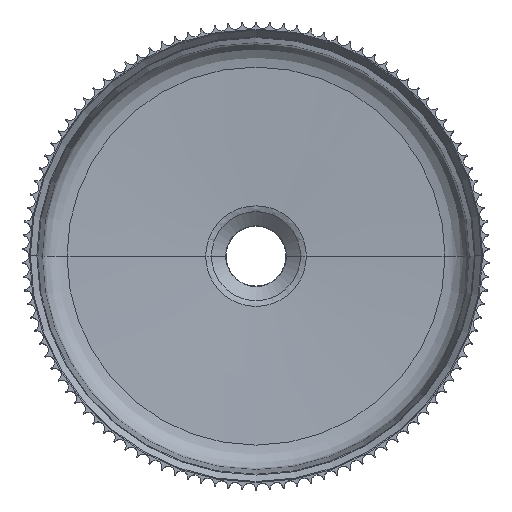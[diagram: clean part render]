
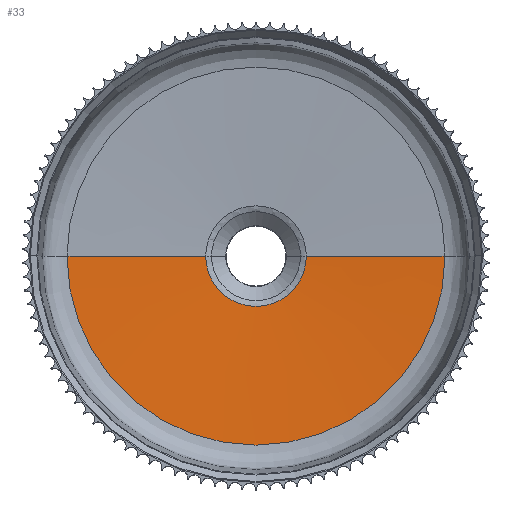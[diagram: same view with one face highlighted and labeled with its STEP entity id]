
A CAD part, top view. The second image highlights one B-rep face of the part: STEP entity #33.
In plain terms, the highlighted free-form (B-spline) face has degree [1, 2] with [2, 5] control points.
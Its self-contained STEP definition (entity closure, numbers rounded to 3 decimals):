
#33=ADVANCED_FACE('',(#503),#8584,.T.);
#503=FACE_OUTER_BOUND('',#973,.T.);
#973=EDGE_LOOP('',(#1816,#1817,#1818,#1819));
#1816=ORIENTED_EDGE('',*,*,#5498,.T.);
#1817=ORIENTED_EDGE('',*,*,#4181,.T.);
#1818=ORIENTED_EDGE('',*,*,#5500,.F.);
#1819=ORIENTED_EDGE('',*,*,#5499,.F.);
#4181=EDGE_CURVE('',#7694,#7695,#5835,.T.);
#5498=EDGE_CURVE('',#8564,#7694,#6863,.T.);
#5499=EDGE_CURVE('',#8564,#8565,#6063,.T.);
#5500=EDGE_CURVE('',#8565,#7695,#6864,.T.);
#5835=B_SPLINE_CURVE_WITH_KNOTS('',1,(#16865,#16866),.UNSPECIFIED.,.F.,
 .F.,(2,2),(424.435,620.937),.UNSPECIFIED.);
#6063=B_SPLINE_CURVE_WITH_KNOTS('',1,(#24238,#24239),.UNSPECIFIED.,.F.,
 .F.,(2,2),(424.435,620.937),.UNSPECIFIED.);
#6863=TRIMMED_CURVE($,#7669,(#24236),(#24237),.T.,.CARTESIAN.);
#6864=TRIMMED_CURVE($,#7670,(#24241),(#24242),.T.,.CARTESIAN.);
#7669=CIRCLE('',#10251,38.708);
#7670=CIRCLE('',#10252,145.486);
#7694=VERTEX_POINT('',#15898);
#7695=VERTEX_POINT('',#15899);
#8564=VERTEX_POINT('',#16768);
#8565=VERTEX_POINT('',#16769);
#8584=(
BOUNDED_SURFACE()
B_SPLINE_SURFACE(1,2,((#12512,#12513,#12514,#12515,#12516),(#12517,#12518,
#12519,#12520,#12521)),.UNSPECIFIED.,.F.,.F.,.F.)
B_SPLINE_SURFACE_WITH_KNOTS((2,2),(3,2,3),(424.435,620.937),
(0.,228.529,457.058),.UNSPECIFIED.)
GEOMETRIC_REPRESENTATION_ITEM()
RATIONAL_B_SPLINE_SURFACE(((1.,0.707,1.,0.707,1.),
(1.,0.707,1.,0.707,1.)))
REPRESENTATION_ITEM('')
SURFACE()
);
#10251=AXIS2_PLACEMENT_3D($,#24235,#12183,#12184);
#10252=AXIS2_PLACEMENT_3D($,#24240,#12185,#12186);
#12183=DIRECTION('',(0.,0.,-1.));
#12184=DIRECTION('',(1.,0.,0.));
#12185=DIRECTION('',(0.,0.,-1.));
#12186=DIRECTION('',(1.,0.,0.));
#12512=CARTESIAN_POINT('',(-21070.356,36329.64,-1573.018));
#12513=CARTESIAN_POINT('',(-21070.356,36290.932,-1573.018));
#12514=CARTESIAN_POINT('',(-21031.649,36290.932,-1573.018));
#12515=CARTESIAN_POINT('',(-20992.941,36290.932,-1573.018));
#12516=CARTESIAN_POINT('',(-20992.941,36329.64,-1573.018));
#12517=CARTESIAN_POINT('',(-21177.135,36329.64,-1567.918));
#12518=CARTESIAN_POINT('',(-21177.135,36184.154,-1567.918));
#12519=CARTESIAN_POINT('',(-21031.649,36184.154,-1567.918));
#12520=CARTESIAN_POINT('',(-20886.163,36184.154,-1567.918));
#12521=CARTESIAN_POINT('',(-20886.163,36329.64,-1567.918));
#15898=CARTESIAN_POINT('',(-21070.356,36329.64,-1573.018));
#15899=CARTESIAN_POINT('',(-21177.135,36329.64,-1567.918));
#16768=CARTESIAN_POINT('',(-20992.941,36329.64,-1573.018));
#16769=CARTESIAN_POINT('',(-20886.163,36329.64,-1567.918));
#16865=CARTESIAN_POINT('',(-21070.356,36329.64,-1573.018));
#16866=CARTESIAN_POINT('',(-21177.135,36329.64,-1567.918));
#24235=CARTESIAN_POINT('',(-21031.649,36329.64,-1573.018));
#24236=CARTESIAN_POINT('',(-20992.941,36329.64,-1573.018));
#24237=CARTESIAN_POINT('',(-21070.356,36329.64,-1573.018));
#24238=CARTESIAN_POINT('',(-20992.941,36329.64,-1573.018));
#24239=CARTESIAN_POINT('',(-20886.163,36329.64,-1567.918));
#24240=CARTESIAN_POINT('',(-21031.649,36329.64,-1567.918));
#24241=CARTESIAN_POINT('',(-20886.163,36329.64,-1567.918));
#24242=CARTESIAN_POINT('',(-21177.135,36329.64,-1567.918));
